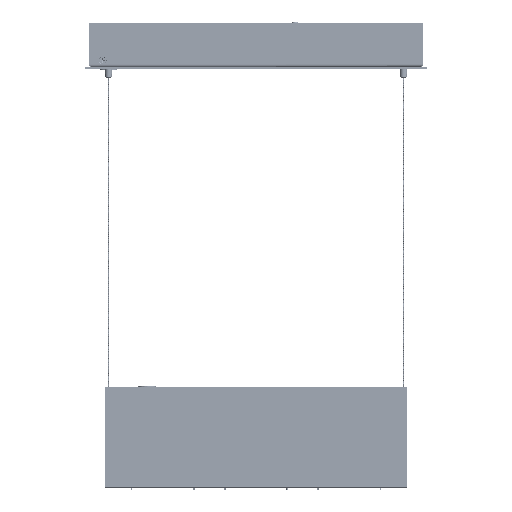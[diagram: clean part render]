
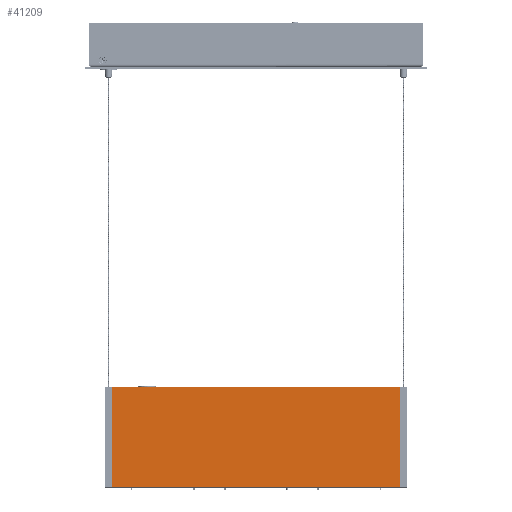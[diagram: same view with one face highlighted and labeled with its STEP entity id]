
A CAD part, top view. The second image highlights one B-rep face of the part: STEP entity #41209.
In plain terms, the highlighted planar face has unit normal (0, 0, 1) as drawn and (1, 0, 0) by its records, which use the part's own axes.
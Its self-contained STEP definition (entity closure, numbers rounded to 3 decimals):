
#2045 = LINE ( 'NONE', #138610, #63563 ) ;
#2257 = CARTESIAN_POINT ( 'NONE',  ( 82.563, 82.55, 0. ) ) ;
#5499 = DIRECTION ( 'NONE',  ( 0., 0., 1. ) ) ;
#10128 = LINE ( 'NONE', #62673, #318015 ) ;
#22943 = DIRECTION ( 'NONE',  ( 0., 1., 0. ) ) ;
#26396 = CARTESIAN_POINT ( 'NONE',  ( 82.563, 0.381, 0. ) ) ;
#33381 = VECTOR ( 'NONE', #22943, 1000. ) ;
#39707 = VECTOR ( 'NONE', #226795, 1000. ) ;
#41209 = ADVANCED_FACE ( 'NONE', ( #182925 ), #49768, .T. ) ;
#47569 = LINE ( 'NONE', #26396, #33381 ) ;
#49768 = PLANE ( 'NONE',  #70948 ) ;
#56903 = VERTEX_POINT ( 'NONE', #345972 ) ;
#57361 = EDGE_CURVE ( 'NONE', #56903, #198101, #2045, .T. ) ;
#62673 = CARTESIAN_POINT ( 'NONE',  ( 82.563, 0.381, -234.95 ) ) ;
#63563 = VECTOR ( 'NONE', #5499, 1000. ) ;
#67861 = DIRECTION ( 'NONE',  ( 0., 1., 0. ) ) ;
#70948 = AXIS2_PLACEMENT_3D ( 'NONE', #130323, #156595, #263495 ) ;
#83737 = ORIENTED_EDGE ( 'NONE', *, *, #231525, .F. ) ;
#97637 = CARTESIAN_POINT ( 'NONE',  ( 82.563, 0.381, -234.95 ) ) ;
#104737 = VERTEX_POINT ( 'NONE', #134161 ) ;
#130323 = CARTESIAN_POINT ( 'NONE',  ( 82.563, 0.381, -234.95 ) ) ;
#134161 = CARTESIAN_POINT ( 'NONE',  ( 82.563, 0.381, 0. ) ) ;
#138610 = CARTESIAN_POINT ( 'NONE',  ( 82.563, 82.55, -234.95 ) ) ;
#149611 = LINE ( 'NONE', #279357, #39707 ) ;
#155388 = VERTEX_POINT ( 'NONE', #97637 ) ;
#156595 = DIRECTION ( 'NONE',  ( 1., 0., 0. ) ) ;
#164942 = EDGE_LOOP ( 'NONE', ( #83737, #196160, #183111, #240251 ) ) ;
#182925 = FACE_OUTER_BOUND ( 'NONE', #164942, .T. ) ;
#183111 = ORIENTED_EDGE ( 'NONE', *, *, #215882, .T. ) ;
#196160 = ORIENTED_EDGE ( 'NONE', *, *, #298101, .F. ) ;
#198101 = VERTEX_POINT ( 'NONE', #2257 ) ;
#215882 = EDGE_CURVE ( 'NONE', #155388, #56903, #10128, .T. ) ;
#226795 = DIRECTION ( 'NONE',  ( 0., 0., 1. ) ) ;
#231525 = EDGE_CURVE ( 'NONE', #104737, #198101, #47569, .T. ) ;
#240251 = ORIENTED_EDGE ( 'NONE', *, *, #57361, .T. ) ;
#263495 = DIRECTION ( 'NONE',  ( 0., 1., 0. ) ) ;
#279357 = CARTESIAN_POINT ( 'NONE',  ( 82.563, 0.381, -234.95 ) ) ;
#298101 = EDGE_CURVE ( 'NONE', #155388, #104737, #149611, .T. ) ;
#318015 = VECTOR ( 'NONE', #67861, 1000. ) ;
#345972 = CARTESIAN_POINT ( 'NONE',  ( 82.563, 82.55, -234.95 ) ) ;
